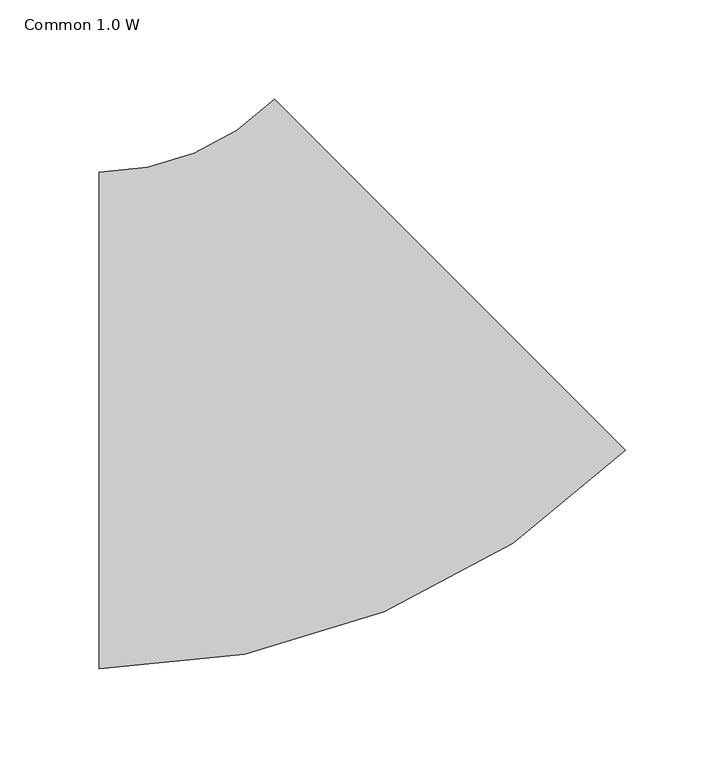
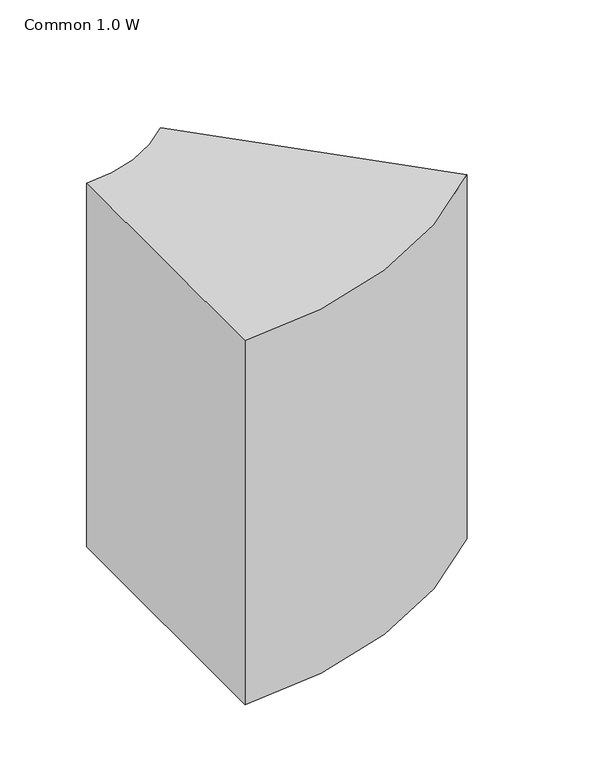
"""IFC4 building model written with IfcOpenShell, lengths in millimetres: duct fitting geometry, 011_角型エルボ - 半径 : Common 1.0 W."""

import ifcopenshell
import ifcopenshell.guid

model = None  # the IFC model being written
_history = None  # IfcOwnerHistory: only IFC2X3 demands one
_inside = {}  # id of a spatial element -> (the spatial element, [elements in it])
_under = {}  # id of a project, library or spatial element -> (it, [spatial elements below it])
_declared = {}  # id of a project -> (the project, [libraries it declares])
_typed = {}  # id of a type object -> (the type object, [elements of that type])
_made_of = {}  # id of a material, layer set ... -> (it, [elements and type objects made of it])


def new_model(schema):
    """Start an empty IFC model of exactly this schema.

    Asked for "IFC4X3", IfcOpenShell would pick the latest addendum, in which some entities
    have other attributes; the version numbers below select the first issue.
    IFC2X3 requires an IfcOwnerHistory on every rooted entity: one is made here for all.
    """
    global model, _history
    if schema == "IFC4X3":
        model = ifcopenshell.file(schema_version=(4, 3, 0, 0))
    else:
        model = ifcopenshell.file(schema=schema)
    _inside.clear()
    _under.clear()
    _declared.clear()
    _typed.clear()
    _made_of.clear()
    _history = None
    if model.schema == "IFC2X3":
        org = make("IfcOrganization", Name="unknown")
        user = make(
            "IfcPersonAndOrganization",
            ThePerson=make("IfcPerson", FamilyName="unknown"),
            TheOrganization=org,
        )
        app = make(
            "IfcApplication",
            ApplicationDeveloper=org,
            Version="unknown",
            ApplicationFullName="unknown",
            ApplicationIdentifier="unknown",
        )
        _history = make(
            "IfcOwnerHistory",
            OwningUser=user,
            OwningApplication=app,
            ChangeAction="ADDED",
            CreationDate=0,
        )
    return model


def make(cls, **values):
    """One entity of the class cls with the attributes given. An attribute that is None is left unset."""
    return model.create_entity(
        cls, **{name: value for name, value in values.items() if value is not None}
    )


def rooted(cls, **values):
    """An entity with a GlobalId (a new one), such as an element, a storey or a relation."""
    return make(cls, GlobalId=ifcopenshell.guid.new(), OwnerHistory=_history, **values)


def si_unit(unit_type, name, prefix=None):
    """IfcSIUnit, for example si_unit("LENGTHUNIT", "METRE", prefix="MILLI")."""
    return make("IfcSIUnit", UnitType=unit_type, Prefix=prefix, Name=name)


def assignment(units):
    """IfcUnitAssignment: the units of a project."""
    return None if units is None else make("IfcUnitAssignment", Units=units)


def point(xyz):
    """IfcCartesianPoint."""
    return None if xyz is None else make("IfcCartesianPoint", Coordinates=xyz)


def direction(xyz):
    """IfcDirection."""
    return None if xyz is None else make("IfcDirection", DirectionRatios=xyz)


def frame(location, z_axis=None, x_axis=None):
    """IfcAxis2Placement3D, a coordinate frame: its origin and axes. An axis left out is left unset."""
    return make(
        "IfcAxis2Placement3D",
        Location=point(location),
        Axis=direction(z_axis),
        RefDirection=direction(x_axis),
    )


def frame_2d(location, x_axis=None):
    """IfcAxis2Placement2D, a coordinate frame in the plane: its origin and x axis."""
    return make(
        "IfcAxis2Placement2D", Location=point(location), RefDirection=direction(x_axis)
    )


def origin():
    """The frame at (0, 0, 0) with its axes left unset."""
    return frame((0.0, 0.0, 0.0))


def place(relative_to, where):
    """IfcLocalPlacement: puts the frame where relative to a parent placement (None: the world)."""
    return make(
        "IfcLocalPlacement", PlacementRelTo=relative_to, RelativePlacement=where
    )


def context(
    kind, dimensions, precision=None, world=None, true_north=None, identifier=None
):
    """IfcGeometricRepresentationContext, for example the 3D "Model" context."""
    return make(
        "IfcGeometricRepresentationContext",
        ContextIdentifier=identifier,
        ContextType=kind,
        CoordinateSpaceDimension=dimensions,
        Precision=precision,
        WorldCoordinateSystem=world,
        TrueNorth=true_north,
    )


def project(units=None, contexts=None):
    """IfcProject with its units and contexts."""
    return rooted(
        "IfcProject",
        Name="project",
        RepresentationContexts=contexts,
        UnitsInContext=assignment(units),
    )


def spatial(cls, under=None, at=None, **own):
    """A site, building, storey or space (cls), placed at a placement, below another one or the project."""
    s = rooted(cls, ObjectPlacement=at, **own)
    if under is not None:
        _under.setdefault(under.id(), (under, []))[1].append(s)
    return s


def polyline(points):
    """IfcPolyline through the points."""
    return make("IfcPolyline", Points=[point(p) for p in points])


def circle_curve(where, radius):
    """IfcCircle in the frame where."""
    return make("IfcCircle", Position=where, Radius=radius)


def trimmed(basis, trim1, trim2, sense, master):
    """IfcTrimmedCurve: the piece of a basis curve between two trims."""
    return make(
        "IfcTrimmedCurve",
        BasisCurve=basis,
        Trim1=trim1,
        Trim2=trim2,
        SenseAgreement=sense,
        MasterRepresentation=master,
    )


def segment(curve, same_sense, transition):
    """IfcCompositeCurveSegment."""
    return make(
        "IfcCompositeCurveSegment",
        Transition=transition,
        SameSense=same_sense,
        ParentCurve=curve,
    )


def composite_curve(segments, self_intersect=None):
    """IfcCompositeCurve: segments joined end to end."""
    return make("IfcCompositeCurve", Segments=segments, SelfIntersect=self_intersect)


def outline(outer, holes=None, kind="AREA"):
    """IfcArbitraryClosedProfileDef: a profile drawn as a closed curve; with holes, ...WithVoids."""
    if holes is None:
        return make("IfcArbitraryClosedProfileDef", ProfileType=kind, OuterCurve=outer)
    return make(
        "IfcArbitraryProfileDefWithVoids",
        ProfileType=kind,
        OuterCurve=outer,
        InnerCurves=holes,
    )


def extrude(swept, where, along, depth):
    """IfcExtrudedAreaSolid: the profile swept, set in the frame where, extruded along a direction by depth."""
    return make(
        "IfcExtrudedAreaSolid",
        SweptArea=swept,
        Position=where,
        ExtrudedDirection=direction(along),
        Depth=depth,
    )


def shape(context_of_items, identifier, shape_type, items):
    """IfcShapeRepresentation: the items that make up one representation, for example the "Body"."""
    return make(
        "IfcShapeRepresentation",
        ContextOfItems=context_of_items,
        RepresentationIdentifier=identifier,
        RepresentationType=shape_type,
        Items=items,
    )


def source(mapping_origin, context_of_items, identifier, shape_type, items):
    """IfcRepresentationMap: a shape defined once, which mapped items show again and again."""
    return make(
        "IfcRepresentationMap",
        MappingOrigin=mapping_origin,
        MappedRepresentation=shape(context_of_items, identifier, shape_type, items),
    )


def transform(
    local_origin,
    x_axis=None,
    y_axis=None,
    z_axis=None,
    scale=None,
    scale2=None,
    scale3=None,
    uniform=True,
):
    """IfcCartesianTransformationOperator3D, or its non-uniform kind. x_axis, y_axis, z_axis: its Axis1, 2, 3."""
    if uniform:
        return make(
            "IfcCartesianTransformationOperator3D",
            Axis1=direction(x_axis),
            Axis2=direction(y_axis),
            LocalOrigin=point(local_origin),
            Scale=scale,
            Axis3=direction(z_axis),
        )
    return make(
        "IfcCartesianTransformationOperator3DnonUniform",
        Axis1=direction(x_axis),
        Axis2=direction(y_axis),
        LocalOrigin=point(local_origin),
        Scale=scale,
        Axis3=direction(z_axis),
        Scale2=scale2,
        Scale3=scale3,
    )


def mapped(mapping_source, mapping_target):
    """IfcMappedItem: shows the shape of a source again, moved by a transform."""
    return make(
        "IfcMappedItem", MappingSource=mapping_source, MappingTarget=mapping_target
    )


def made_of(thing, what):
    """Note that an element or type object is made of a material, layer set ...; save() writes the relation."""
    if what is not None:
        _made_of.setdefault(what.id(), (what, []))[1].append(thing)
    return thing


def element(
    cls,
    number,
    at=None,
    inside=None,
    cuts=None,
    type_object=None,
    material=None,
    context=None,
    identifier="Body",
    shape_type=None,
    held_by="IfcProductDefinitionShape",
    body=None,
    shapes=None,
    **own,
):
    """One element of the class cls, such as IfcWall. Its Tag is "e" and its number.

    at: its placement. inside: the storey or other place that contains it. cuts: it is an
    opening in that element (IfcRelVoidsElement). A single representation is given by context,
    identifier, shape_type and body (its items); several are given by shapes. held_by: the class
    of the entity that holds the representations. save() writes the other relations.
    """
    e = rooted(cls, Tag="e%d" % number, ObjectPlacement=at, **own)
    if body is not None:
        shapes = [shape(context, identifier, shape_type, body)]
    if shapes is not None:
        e.Representation = make(held_by, Representations=shapes)
    if inside is not None:
        _inside.setdefault(inside.id(), (inside, []))[1].append(e)
    if cuts is not None:
        rooted(
            "IfcRelVoidsElement", RelatingBuildingElement=cuts, RelatedOpeningElement=e
        )
    if type_object is not None:
        _typed.setdefault(type_object.id(), (type_object, []))[1].append(e)
    return made_of(e, material)


def aggregate(whole, parts):
    """IfcRelAggregates: a whole, such as a stair, and the parts it consists of."""
    return rooted("IfcRelAggregates", RelatingObject=whole, RelatedObjects=parts)


def save(model, path):
    """Write the relations noted so far, then the file.

    IfcRelAggregates (storeys below a building ...), IfcRelContainedInSpatialStructure (elements
    in a storey), IfcRelDefinesByType, IfcRelAssociatesMaterial and IfcRelDeclares: one each for
    every whole, place, type object, material and project.
    """
    for whole, parts in _under.values():
        aggregate(whole, parts)
    for where, things in _inside.values():
        rooted(
            "IfcRelContainedInSpatialStructure",
            RelatedElements=things,
            RelatingStructure=where,
        )
    for kind, things in _typed.values():
        rooted("IfcRelDefinesByType", RelatedObjects=things, RelatingType=kind)
    for what, things in _made_of.values():
        rooted("IfcRelAssociatesMaterial", RelatedObjects=things, RelatingMaterial=what)
    for by, libraries in _declared.values():
        rooted("IfcRelDeclares", RelatingContext=by, RelatedDefinitions=libraries)
    model.write(path)


def common_1_0_w_68f2167f(model_context):
    return source(origin(), model_context, "Body", "SweptSolid", [
        extrude(outline(composite_curve([segment(trimmed(circle_curve(frame_2d((-103.5533906, 250.0)), 375.0), [point((161.6116524, -15.1650429))], [point((-103.5533906, -125.0))], False, "CARTESIAN"), True, "CONTINUOUS"), segment(polyline([(-103.5533906, -125.0), (-103.5533906, 125.0)]), True, "CONTINUOUS"), segment(trimmed(circle_curve(frame_2d((-103.5533906, 250.0)), 125.0), [point((-103.5533906, 125.0))], [point((-15.1650429, 161.6116524))], True, "CARTESIAN"), True, "CONTINUOUS"), segment(polyline([(-15.1650429, 161.6116524), (161.6116524, -15.1650429)]), True, "CONTINUOUS")], self_intersect=False)), frame((0.0, 0.0, -175.0), z_axis=(0.0, 0.0, 1.0), x_axis=(1.0, 0.0, 0.0)), (0.0, 0.0, 1.0), 350.0),
    ])


if __name__ == "__main__":
    model = new_model("IFC4")
    model_context = context("Model", 3, world=origin())
    ifc_project = project(units=[si_unit("LENGTHUNIT", "METRE", prefix="MILLI")], contexts=[model_context])
    site = spatial("IfcSite", under=ifc_project)
    building = spatial("IfcBuilding", under=site)
    placement = place(None, origin())
    common_1_0_w_shape = common_1_0_w_68f2167f(model_context)
    element("IfcDuctFitting", 1, ObjectType="011_角型エルボ - 半径 : Common 1.0 W", at=placement, inside=building, context=model_context, shape_type="MappedRepresentation", body=[
        mapped(common_1_0_w_shape, transform((0.0, 0.0, 0.0), x_axis=(1.0, 0.0, 0.0), y_axis=(0.0, 1.0, 0.0), z_axis=(0.0, 0.0, 1.0))),
    ])
    save(model, "model.ifc")
